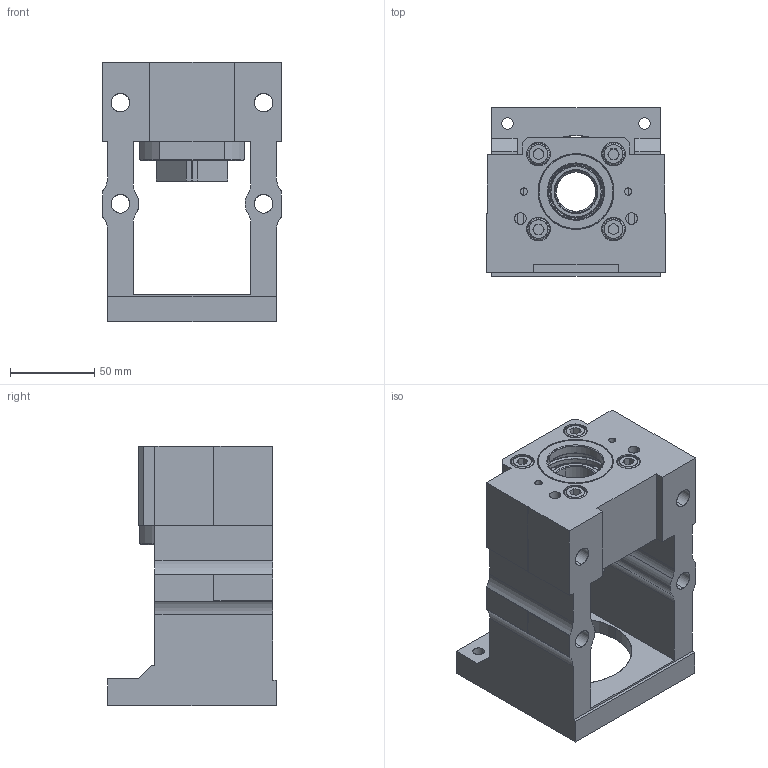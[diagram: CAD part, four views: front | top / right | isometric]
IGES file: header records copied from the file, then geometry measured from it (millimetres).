
Start section: SolidWorks IGES file using analytic representation for surfaces
Bounding box: 106 x 100 x 154 mm (x, y, z)
Surface area: 122008.8 mm2 (no closed solid volume)
Topology: 0 solids, 0 shells, 306 faces, 4320 edges, 4264 vertices
Faces by surface type: revolution 168, bspline 138
